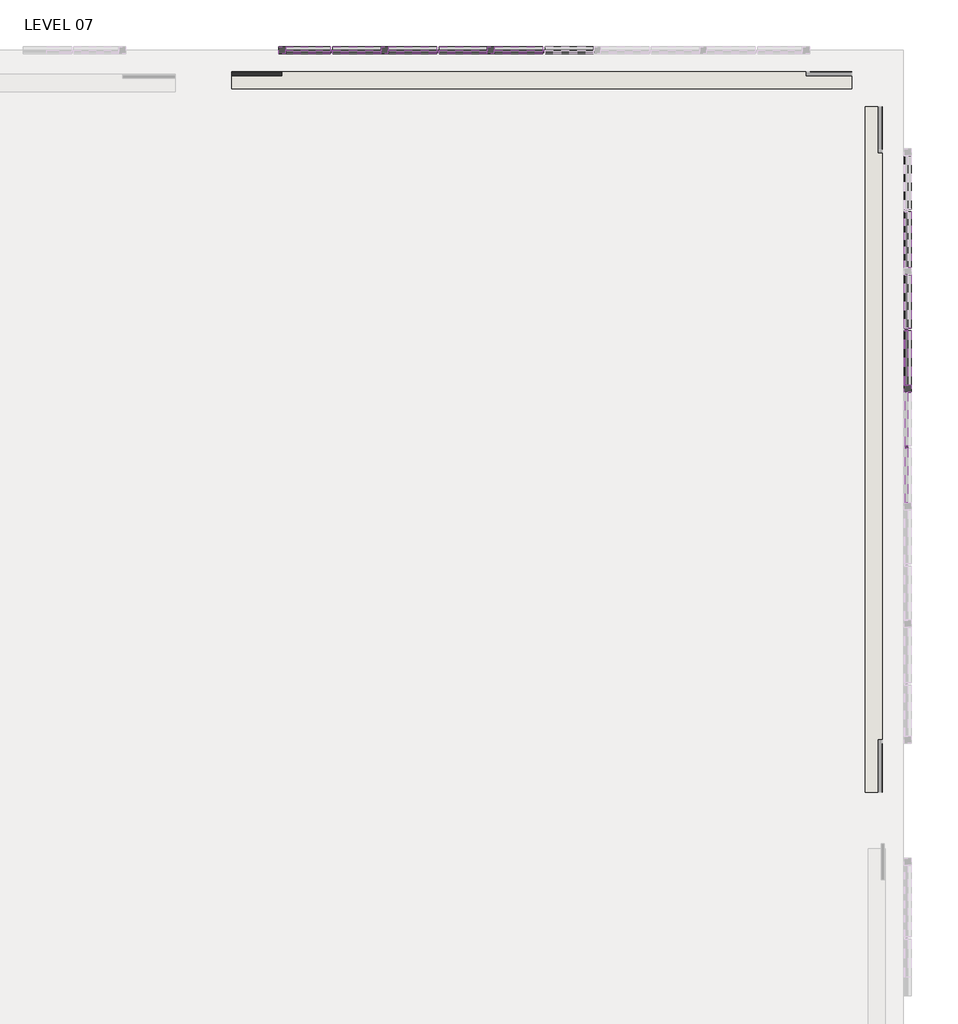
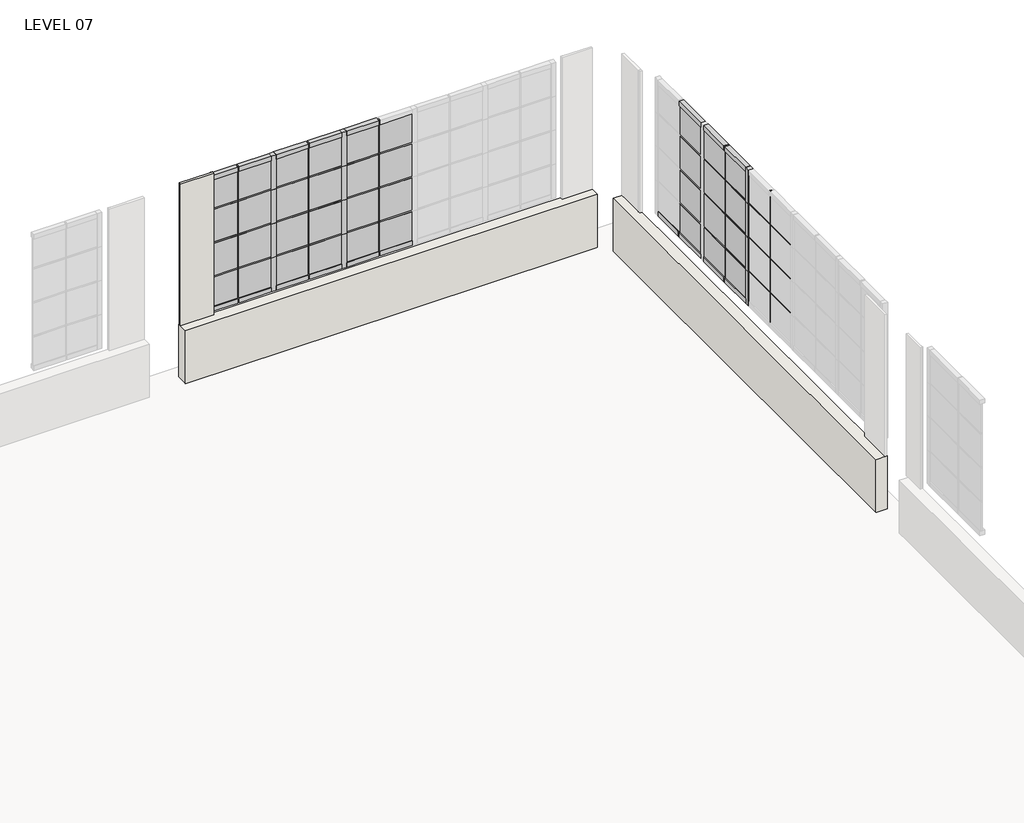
# One storey, part 14 of 15: 78 members, 36 plates, 4 walls.
"""IFC4 building model written with IfcOpenShell, lengths in millimetres."""

from ifc_helpers import new_model, si_unit, frame, origin, place, context, project, spatial, polyline, outline, extrude, faceted_brep, transform, mapped, element, save
from components import member_78bb2ef1, member_d9fe2114, member_fd592df6, member_818b941f, member_79ff4cf2, member_eeb356eb, member_378e0c06, member_ba51e770, member_6e5aab5d, member_bacafba3, member_a6d649dc, member_141a1acd, member_fd366a57, member_934bc167, member_c8ab9ee9, system_panel_glazed_938f432d, system_panel_glazed_ccb3424d, system_panel_glazed_28c059df, system_panel_glazed_11270c83, system_panel_glazed_8b5984c8, system_panel_glazed_ea9a5d31, system_panel_glazed_84a10c8e, system_panel_glazed_44697018, system_panel_glazed_99b9b709, system_panel_glazed_bf1454fd

model = new_model("IFC4")

# Units and contexts
model_context = context("Model", 3, world=origin())
ifc_project = project(units=[si_unit("LENGTHUNIT", "METRE", prefix="MILLI")], contexts=[model_context])

# Site, building, storey
site = spatial("IfcSite", under=ifc_project)
building = spatial("IfcBuilding", under=site)
storey = spatial("IfcBuildingStorey", under=building, Name="LEVEL 07", Elevation=20802.6)

# Members
placement = place(None, origin())
member_shape = member_78bb2ef1(model_context)
element("IfcMember", 1, ObjectType="Rectangular Mullion : 1\" x 1\" - Butt Joint", at=placement, inside=storey, context=model_context, shape_type="MappedRepresentation", body=[
    mapped(member_shape, transform((-445.6849596, -4690.5244085, 23342.6), x_axis=(0.0, 1.0, 0.0), y_axis=(1.0, 0.0, 0.0), z_axis=(0.0, 0.0, -1.0))),
])
element("IfcMember", 2, ObjectType="Rectangular Mullion : 1\" x 1\" - Butt Joint", at=placement, inside=storey, context=model_context, shape_type="MappedRepresentation", body=[
    mapped(member_shape, transform((-445.6849596, -3421.3746451, 23342.6), x_axis=(0.0, 1.0, 0.0), y_axis=(1.0, 0.0, 0.0), z_axis=(0.0, 0.0, -1.0))),
])
element("IfcMember", 3, ObjectType="Rectangular Mullion : 1\" x 1\" - Butt Joint", at=placement, inside=storey, context=model_context, shape_type="MappedRepresentation", body=[
    mapped(member_shape, transform((-445.6849596, -4690.5244085, 22174.2), x_axis=(0.0, 1.0, 0.0), y_axis=(1.0, 0.0, 0.0), z_axis=(0.0, 0.0, -1.0))),
])
element("IfcMember", 4, ObjectType="Rectangular Mullion : 1\" x 1\" - Butt Joint", at=placement, inside=storey, context=model_context, shape_type="MappedRepresentation", body=[
    mapped(member_shape, transform((-445.6849596, -4690.5244085, 22758.4), x_axis=(0.0, 1.0, 0.0), y_axis=(1.0, 0.0, 0.0), z_axis=(0.0, 0.0, -1.0))),
])
element("IfcMember", 5, ObjectType="Rectangular Mullion : 1\" x 1\" - Butt Joint", at=placement, inside=storey, context=model_context, shape_type="MappedRepresentation", body=[
    mapped(member_shape, transform((-445.6849596, -3421.3746451, 22174.2), x_axis=(0.0, 1.0, 0.0), y_axis=(1.0, 0.0, 0.0), z_axis=(0.0, 0.0, -1.0))),
])
element("IfcMember", 6, ObjectType="Rectangular Mullion : 1\" x 1\" - Butt Joint", at=placement, inside=storey, context=model_context, shape_type="MappedRepresentation", body=[
    mapped(member_shape, transform((-445.6849596, -3421.3746451, 22758.4), x_axis=(0.0, 1.0, 0.0), y_axis=(1.0, 0.0, 0.0), z_axis=(0.0, 0.0, -1.0))),
])
element("IfcMember", 7, ObjectType="Rectangular Mullion : 1\" x 1\" - Butt Joint", at=placement, inside=storey, context=model_context, shape_type="MappedRepresentation", body=[
    mapped(member_shape, transform((-445.6849596, -4690.5244085, 21590.0), x_axis=(0.0, 1.0, 0.0), y_axis=(1.0, 0.0, 0.0), z_axis=(0.0, 0.0, -1.0))),
])
element("IfcMember", 8, ObjectType="Rectangular Mullion : 1\" x 1\" - Butt Joint", at=placement, inside=storey, context=model_context, shape_type="MappedRepresentation", body=[
    mapped(member_shape, transform((-445.6849596, -3421.3746451, 21590.0), x_axis=(0.0, 1.0, 0.0), y_axis=(1.0, 0.0, 0.0), z_axis=(0.0, 0.0, -1.0))),
])
member_2_shape = member_d9fe2114(model_context)
element("IfcMember", 9, ObjectType="Rectangular Mullion : 1\" x 1\" - Butt Joint", at=placement, inside=storey, context=model_context, shape_type="MappedRepresentation", body=[
    mapped(member_2_shape, transform((-6124.4171519, -412.75, 23342.6), x_axis=(0.0, 0.0, 1.0), y_axis=(0.0, -1.0, 0.0), z_axis=(1.0, 0.0, 0.0))),
])
element("IfcMember", 10, ObjectType="Rectangular Mullion : 1\" x 1\" - Butt Joint", at=placement, inside=storey, context=model_context, shape_type="MappedRepresentation", body=[
    mapped(member_2_shape, transform((-4976.3371519, -412.75, 23342.6), x_axis=(0.0, 0.0, 1.0), y_axis=(0.0, -1.0, 0.0), z_axis=(1.0, 0.0, 0.0))),
])
element("IfcMember", 11, ObjectType="Rectangular Mullion : 1\" x 1\" - Butt Joint", at=placement, inside=storey, context=model_context, shape_type="MappedRepresentation", body=[
    mapped(member_2_shape, transform((-5524.9771519, -412.75, 23342.6), x_axis=(0.0, 0.0, 1.0), y_axis=(0.0, -1.0, 0.0), z_axis=(1.0, 0.0, 0.0))),
])
element("IfcMember", 12, ObjectType="Rectangular Mullion : 1\" x 1\" - Butt Joint", at=placement, inside=storey, context=model_context, shape_type="MappedRepresentation", body=[
    mapped(member_2_shape, transform((-4376.8971519, -412.75, 23342.6), x_axis=(0.0, 0.0, 1.0), y_axis=(0.0, -1.0, 0.0), z_axis=(1.0, 0.0, 0.0))),
])
element("IfcMember", 13, ObjectType="Rectangular Mullion : 1\" x 1\" - Butt Joint", at=placement, inside=storey, context=model_context, shape_type="MappedRepresentation", body=[
    mapped(member_2_shape, transform((-6124.4171519, -412.75, 22758.4), x_axis=(0.0, 0.0, 1.0), y_axis=(0.0, -1.0, 0.0), z_axis=(1.0, 0.0, 0.0))),
])
element("IfcMember", 14, ObjectType="Rectangular Mullion : 1\" x 1\" - Butt Joint", at=placement, inside=storey, context=model_context, shape_type="MappedRepresentation", body=[
    mapped(member_2_shape, transform((-4976.3371519, -412.75, 22758.4), x_axis=(0.0, 0.0, 1.0), y_axis=(0.0, -1.0, 0.0), z_axis=(1.0, 0.0, 0.0))),
])
element("IfcMember", 15, ObjectType="Rectangular Mullion : 1\" x 1\" - Butt Joint", at=placement, inside=storey, context=model_context, shape_type="MappedRepresentation", body=[
    mapped(member_2_shape, transform((-5524.9771519, -412.75, 22758.4), x_axis=(0.0, 0.0, 1.0), y_axis=(0.0, -1.0, 0.0), z_axis=(1.0, 0.0, 0.0))),
])
element("IfcMember", 16, ObjectType="Rectangular Mullion : 1\" x 1\" - Butt Joint", at=placement, inside=storey, context=model_context, shape_type="MappedRepresentation", body=[
    mapped(member_2_shape, transform((-4376.8971519, -412.75, 22758.4), x_axis=(0.0, 0.0, 1.0), y_axis=(0.0, -1.0, 0.0), z_axis=(1.0, 0.0, 0.0))),
])
element("IfcMember", 17, ObjectType="Rectangular Mullion : 1\" x 1\" - Butt Joint", at=placement, inside=storey, context=model_context, shape_type="MappedRepresentation", body=[
    mapped(member_2_shape, transform((-6124.4171519, -412.75, 22174.2), x_axis=(0.0, 0.0, 1.0), y_axis=(0.0, -1.0, 0.0), z_axis=(1.0, 0.0, 0.0))),
])
element("IfcMember", 18, ObjectType="Rectangular Mullion : 1\" x 1\" - Butt Joint", at=placement, inside=storey, context=model_context, shape_type="MappedRepresentation", body=[
    mapped(member_2_shape, transform((-4976.3371519, -412.75, 22174.2), x_axis=(0.0, 0.0, 1.0), y_axis=(0.0, -1.0, 0.0), z_axis=(1.0, 0.0, 0.0))),
])
element("IfcMember", 19, ObjectType="Rectangular Mullion : 1\" x 1\" - Butt Joint", at=placement, inside=storey, context=model_context, shape_type="MappedRepresentation", body=[
    mapped(member_2_shape, transform((-5524.9771519, -412.75, 22174.2), x_axis=(0.0, 0.0, 1.0), y_axis=(0.0, -1.0, 0.0), z_axis=(1.0, 0.0, 0.0))),
])
element("IfcMember", 20, ObjectType="Rectangular Mullion : 1\" x 1\" - Butt Joint", at=placement, inside=storey, context=model_context, shape_type="MappedRepresentation", body=[
    mapped(member_2_shape, transform((-4376.8971519, -412.75, 22174.2), x_axis=(0.0, 0.0, 1.0), y_axis=(0.0, -1.0, 0.0), z_axis=(1.0, 0.0, 0.0))),
])
member_3_shape = member_fd592df6(model_context)
element("IfcMember", 21, ObjectType="Rectangular Mullion : 1\" x 1\" - Butt Joint", at=placement, inside=storey, context=model_context, shape_type="MappedRepresentation", body=[
    mapped(member_3_shape, transform((-6673.0571519, -412.75, 23342.6), x_axis=(0.0, 0.0, 1.0), y_axis=(0.0, -1.0, 0.0), z_axis=(1.0, 0.0, 0.0))),
])
element("IfcMember", 22, ObjectType="Rectangular Mullion : 1\" x 1\" - Butt Joint", at=placement, inside=storey, context=model_context, shape_type="MappedRepresentation", body=[
    mapped(member_3_shape, transform((-6673.0571519, -412.75, 22758.4), x_axis=(0.0, 0.0, 1.0), y_axis=(0.0, -1.0, 0.0), z_axis=(1.0, 0.0, 0.0))),
])
element("IfcMember", 23, ObjectType="Rectangular Mullion : 1\" x 1\" - Butt Joint", at=placement, inside=storey, context=model_context, shape_type="MappedRepresentation", body=[
    mapped(member_3_shape, transform((-6673.0571519, -412.75, 22174.2), x_axis=(0.0, 0.0, 1.0), y_axis=(0.0, -1.0, 0.0), z_axis=(1.0, 0.0, 0.0))),
])
element("IfcMember", 24, ObjectType="Rectangular Mullion : 1\" x 1\" - Butt Joint", at=placement, inside=storey, context=model_context, shape_type="MappedRepresentation", body=[
    mapped(member_shape, transform((-4364.1971519, -412.75, 23342.6), x_axis=(1.0, 0.0, 0.0), y_axis=(0.0, -1.0, 0.0), z_axis=(0.0, 0.0, -1.0))),
])
element("IfcMember", 25, ObjectType="Rectangular Mullion : 1\" x 1\" - Butt Joint", at=placement, inside=storey, context=model_context, shape_type="MappedRepresentation", body=[
    mapped(member_shape, transform((-5512.2771519, -412.75, 23342.6), x_axis=(1.0, 0.0, 0.0), y_axis=(0.0, -1.0, 0.0), z_axis=(0.0, 0.0, -1.0))),
])
element("IfcMember", 26, ObjectType="Rectangular Mullion : 1\" x 1\" - Butt Joint", at=placement, inside=storey, context=model_context, shape_type="MappedRepresentation", body=[
    mapped(member_shape, transform((-6660.3571519, -412.75, 23342.6), x_axis=(1.0, 0.0, 0.0), y_axis=(0.0, -1.0, 0.0), z_axis=(0.0, 0.0, -1.0))),
])
element("IfcMember", 27, ObjectType="Rectangular Mullion : 1\" x 1\" - Butt Joint", at=placement, inside=storey, context=model_context, shape_type="MappedRepresentation", body=[
    mapped(member_shape, transform((-4364.1971519, -412.75, 22174.2), x_axis=(1.0, 0.0, 0.0), y_axis=(0.0, -1.0, 0.0), z_axis=(0.0, 0.0, -1.0))),
])
element("IfcMember", 28, ObjectType="Rectangular Mullion : 1\" x 1\" - Butt Joint", at=placement, inside=storey, context=model_context, shape_type="MappedRepresentation", body=[
    mapped(member_shape, transform((-4364.1971519, -412.75, 22758.4), x_axis=(1.0, 0.0, 0.0), y_axis=(0.0, -1.0, 0.0), z_axis=(0.0, 0.0, -1.0))),
])
element("IfcMember", 29, ObjectType="Rectangular Mullion : 1\" x 1\" - Butt Joint", at=placement, inside=storey, context=model_context, shape_type="MappedRepresentation", body=[
    mapped(member_shape, transform((-5512.2771519, -412.75, 22174.2), x_axis=(1.0, 0.0, 0.0), y_axis=(0.0, -1.0, 0.0), z_axis=(0.0, 0.0, -1.0))),
])
element("IfcMember", 30, ObjectType="Rectangular Mullion : 1\" x 1\" - Butt Joint", at=placement, inside=storey, context=model_context, shape_type="MappedRepresentation", body=[
    mapped(member_shape, transform((-5512.2771519, -412.75, 22758.4), x_axis=(1.0, 0.0, 0.0), y_axis=(0.0, -1.0, 0.0), z_axis=(0.0, 0.0, -1.0))),
])
element("IfcMember", 31, ObjectType="Rectangular Mullion : 1\" x 1\" - Butt Joint", at=placement, inside=storey, context=model_context, shape_type="MappedRepresentation", body=[
    mapped(member_shape, transform((-6660.3571519, -412.75, 22174.2), x_axis=(1.0, 0.0, 0.0), y_axis=(0.0, -1.0, 0.0), z_axis=(0.0, 0.0, -1.0))),
])
element("IfcMember", 32, ObjectType="Rectangular Mullion : 1\" x 1\" - Butt Joint", at=placement, inside=storey, context=model_context, shape_type="MappedRepresentation", body=[
    mapped(member_shape, transform((-6660.3571519, -412.75, 22758.4), x_axis=(1.0, 0.0, 0.0), y_axis=(0.0, -1.0, 0.0), z_axis=(0.0, 0.0, -1.0))),
])
element("IfcMember", 33, ObjectType="Rectangular Mullion : 1\" x 1\" - Butt Joint", at=placement, inside=storey, context=model_context, shape_type="MappedRepresentation", body=[
    mapped(member_shape, transform((-4364.1971519, -412.75, 21590.0), x_axis=(1.0, 0.0, 0.0), y_axis=(0.0, -1.0, 0.0), z_axis=(0.0, 0.0, -1.0))),
])
element("IfcMember", 34, ObjectType="Rectangular Mullion : 1\" x 1\" - Butt Joint", at=placement, inside=storey, context=model_context, shape_type="MappedRepresentation", body=[
    mapped(member_shape, transform((-5512.2771519, -412.75, 21590.0), x_axis=(1.0, 0.0, 0.0), y_axis=(0.0, -1.0, 0.0), z_axis=(0.0, 0.0, -1.0))),
])
element("IfcMember", 35, ObjectType="Rectangular Mullion : 1\" x 1\" - Butt Joint", at=placement, inside=storey, context=model_context, shape_type="MappedRepresentation", body=[
    mapped(member_shape, transform((-6660.3571519, -412.75, 21590.0), x_axis=(1.0, 0.0, 0.0), y_axis=(0.0, -1.0, 0.0), z_axis=(0.0, 0.0, -1.0))),
])
member_4_shape = member_818b941f(model_context)
element("IfcMember", 36, ObjectType="Rectangular Mullion : 1\" x 1\" - Butt Joint", at=placement, inside=storey, context=model_context, shape_type="MappedRepresentation", body=[
    mapped(member_4_shape, transform((-445.6849596, -4703.2244085, 23342.6), x_axis=(0.0, 0.0, 1.0), y_axis=(1.0, 0.0, 0.0), z_axis=(0.0, 1.0, 0.0))),
])
element("IfcMember", 37, ObjectType="Rectangular Mullion : 1\" x 1\" - Butt Joint", at=placement, inside=storey, context=model_context, shape_type="MappedRepresentation", body=[
    mapped(member_4_shape, transform((-445.6849596, -4703.2244085, 22758.4), x_axis=(0.0, 0.0, 1.0), y_axis=(1.0, 0.0, 0.0), z_axis=(0.0, 1.0, 0.0))),
])
element("IfcMember", 38, ObjectType="Rectangular Mullion : 1\" x 1\" - Butt Joint", at=placement, inside=storey, context=model_context, shape_type="MappedRepresentation", body=[
    mapped(member_4_shape, transform((-445.6849596, -4703.2244085, 22174.2), x_axis=(0.0, 0.0, 1.0), y_axis=(1.0, 0.0, 0.0), z_axis=(0.0, 1.0, 0.0))),
])
member_5_shape = member_79ff4cf2(model_context)
element("IfcMember", 39, ObjectType="Rectangular Mullion : 1\" x 1\" - Butt Joint", at=placement, inside=storey, context=model_context, shape_type="MappedRepresentation", body=[
    mapped(member_5_shape, transform((-445.6849596, -4097.8595268, 23342.6), x_axis=(0.0, 0.0, 1.0), y_axis=(1.0, 0.0, 0.0), z_axis=(0.0, 1.0, 0.0))),
])
element("IfcMember", 40, ObjectType="Rectangular Mullion : 1\" x 1\" - Butt Joint", at=placement, inside=storey, context=model_context, shape_type="MappedRepresentation", body=[
    mapped(member_5_shape, transform((-445.6849596, -4097.8595268, 22758.4), x_axis=(0.0, 0.0, 1.0), y_axis=(1.0, 0.0, 0.0), z_axis=(0.0, 1.0, 0.0))),
])
element("IfcMember", 41, ObjectType="Rectangular Mullion : 1\" x 1\" - Butt Joint", at=placement, inside=storey, context=model_context, shape_type="MappedRepresentation", body=[
    mapped(member_5_shape, transform((-445.6849596, -4097.8595268, 22174.2), x_axis=(0.0, 0.0, 1.0), y_axis=(1.0, 0.0, 0.0), z_axis=(0.0, 1.0, 0.0))),
])
member_6_shape = member_eeb356eb(model_context)
element("IfcMember", 42, ObjectType="Rectangular Mullion : 1\" x 1\" - Butt Joint", at=placement, inside=storey, context=model_context, shape_type="MappedRepresentation", body=[
    mapped(member_6_shape, transform((-445.6849596, -3434.0746451, 23342.6), x_axis=(0.0, 0.0, 1.0), y_axis=(1.0, 0.0, 0.0), z_axis=(0.0, 1.0, 0.0))),
])
element("IfcMember", 43, ObjectType="Rectangular Mullion : 1\" x 1\" - Butt Joint", at=placement, inside=storey, context=model_context, shape_type="MappedRepresentation", body=[
    mapped(member_6_shape, transform((-445.6849596, -3434.0746451, 22758.4), x_axis=(0.0, 0.0, 1.0), y_axis=(1.0, 0.0, 0.0), z_axis=(0.0, 1.0, 0.0))),
])
element("IfcMember", 44, ObjectType="Rectangular Mullion : 1\" x 1\" - Butt Joint", at=placement, inside=storey, context=model_context, shape_type="MappedRepresentation", body=[
    mapped(member_6_shape, transform((-445.6849596, -3434.0746451, 22174.2), x_axis=(0.0, 0.0, 1.0), y_axis=(1.0, 0.0, 0.0), z_axis=(0.0, 1.0, 0.0))),
])
member_7_shape = member_378e0c06(model_context)
element("IfcMember", 45, ObjectType="Rectangular Mullion : 3\" x 3\" Window Jamb", at=placement, inside=storey, context=model_context, shape_type="MappedRepresentation", body=[
    mapped(member_7_shape, transform((-445.6849596, -4059.7595268, 23342.6), x_axis=(0.0, 1.0, 0.0), y_axis=(1.0, 0.0, 0.0), z_axis=(0.0, 0.0, -1.0))),
])
element("IfcMember", 46, ObjectType="Rectangular Mullion : 3\" x 3\" Window Jamb", at=placement, inside=storey, context=model_context, shape_type="MappedRepresentation", body=[
    mapped(member_7_shape, transform((-445.6849596, -4059.7595268, 22174.2), x_axis=(0.0, 1.0, 0.0), y_axis=(1.0, 0.0, 0.0), z_axis=(0.0, 0.0, -1.0))),
])
element("IfcMember", 47, ObjectType="Rectangular Mullion : 3\" x 3\" Window Jamb", at=placement, inside=storey, context=model_context, shape_type="MappedRepresentation", body=[
    mapped(member_7_shape, transform((-445.6849596, -4059.7595268, 22758.4), x_axis=(0.0, 1.0, 0.0), y_axis=(1.0, 0.0, 0.0), z_axis=(0.0, 0.0, -1.0))),
])
element("IfcMember", 48, ObjectType="Rectangular Mullion : 3\" x 3\" Window Jamb", at=placement, inside=storey, context=model_context, shape_type="MappedRepresentation", body=[
    mapped(member_7_shape, transform((-445.6849596, -4059.7595268, 21590.0), x_axis=(0.0, 1.0, 0.0), y_axis=(1.0, 0.0, 0.0), z_axis=(0.0, 0.0, -1.0))),
])
member_8_shape = member_ba51e770(model_context)
element("IfcMember", 49, ObjectType="Rectangular Mullion : 3\" x 3\" Window Jamb", at=placement, inside=storey, context=model_context, shape_type="MappedRepresentation", body=[
    mapped(member_8_shape, transform((-6673.0571519, -412.75, 23926.8), x_axis=(0.0, 0.0, 1.0), y_axis=(0.0, -1.0, 0.0), z_axis=(1.0, 0.0, 0.0))),
])
member_9_shape = member_6e5aab5d(model_context)
element("IfcMember", 50, ObjectType="Rectangular Mullion : 3\" x 3\" Window Jamb", at=placement, inside=storey, context=model_context, shape_type="MappedRepresentation", body=[
    mapped(member_9_shape, transform((-5524.9771519, -412.75, 23926.8), x_axis=(0.0, 0.0, 1.0), y_axis=(0.0, -1.0, 0.0), z_axis=(1.0, 0.0, 0.0))),
])
element("IfcMember", 51, ObjectType="Rectangular Mullion : 3\" x 3\" Window Jamb", at=placement, inside=storey, context=model_context, shape_type="MappedRepresentation", body=[
    mapped(member_9_shape, transform((-4376.8971519, -412.75, 23926.8), x_axis=(0.0, 0.0, 1.0), y_axis=(0.0, -1.0, 0.0), z_axis=(1.0, 0.0, 0.0))),
])
element("IfcMember", 52, ObjectType="Rectangular Mullion : 3\" x 3\" Window Jamb", at=placement, inside=storey, context=model_context, shape_type="MappedRepresentation", body=[
    mapped(member_9_shape, transform((-6124.4171519, -412.75, 23926.8), x_axis=(0.0, 0.0, 1.0), y_axis=(0.0, -1.0, 0.0), z_axis=(1.0, 0.0, 0.0))),
])
element("IfcMember", 53, ObjectType="Rectangular Mullion : 3\" x 3\" Window Jamb", at=placement, inside=storey, context=model_context, shape_type="MappedRepresentation", body=[
    mapped(member_9_shape, transform((-4976.3371519, -412.75, 23926.8), x_axis=(0.0, 0.0, 1.0), y_axis=(0.0, -1.0, 0.0), z_axis=(1.0, 0.0, 0.0))),
])
element("IfcMember", 54, ObjectType="Rectangular Mullion : 3\" x 3\" Window Jamb", at=placement, inside=storey, context=model_context, shape_type="MappedRepresentation", body=[
    mapped(member_9_shape, transform((-6647.6571519, -412.75, 21590.0), x_axis=(0.0, 0.0, -1.0), y_axis=(0.0, -1.0, 0.0), z_axis=(-1.0, 0.0, 0.0))),
])
element("IfcMember", 55, ObjectType="Rectangular Mullion : 3\" x 3\" Window Jamb", at=placement, inside=storey, context=model_context, shape_type="MappedRepresentation", body=[
    mapped(member_9_shape, transform((-5499.5771519, -412.75, 21590.0), x_axis=(0.0, 0.0, -1.0), y_axis=(0.0, -1.0, 0.0), z_axis=(-1.0, 0.0, 0.0))),
])
element("IfcMember", 56, ObjectType="Rectangular Mullion : 3\" x 3\" Window Jamb", at=placement, inside=storey, context=model_context, shape_type="MappedRepresentation", body=[
    mapped(member_9_shape, transform((-4351.4971519, -412.75, 21590.0), x_axis=(0.0, 0.0, -1.0), y_axis=(0.0, -1.0, 0.0), z_axis=(-1.0, 0.0, 0.0))),
])
element("IfcMember", 57, ObjectType="Rectangular Mullion : 3\" x 3\" Window Jamb", at=placement, inside=storey, context=model_context, shape_type="MappedRepresentation", body=[
    mapped(member_9_shape, transform((-6048.2171519, -412.75, 21590.0), x_axis=(0.0, 0.0, -1.0), y_axis=(0.0, -1.0, 0.0), z_axis=(-1.0, 0.0, 0.0))),
])
element("IfcMember", 58, ObjectType="Rectangular Mullion : 3\" x 3\" Window Jamb", at=placement, inside=storey, context=model_context, shape_type="MappedRepresentation", body=[
    mapped(member_9_shape, transform((-4900.1371519, -412.75, 21590.0), x_axis=(0.0, 0.0, -1.0), y_axis=(0.0, -1.0, 0.0), z_axis=(-1.0, 0.0, 0.0))),
])
element("IfcMember", 59, ObjectType="Rectangular Mullion : 3\" x 3\" Window Jamb", at=placement, inside=storey, context=model_context, shape_type="MappedRepresentation", body=[
    mapped(member_8_shape, transform((-7158.1971519, -412.75, 21590.0), x_axis=(0.0, 0.0, -1.0), y_axis=(0.0, -1.0, 0.0), z_axis=(-1.0, 0.0, 0.0))),
])
member_10_shape = member_bacafba3(model_context)
element("IfcMember", 60, ObjectType="Rectangular Mullion : 3\" x 3\" Window Jamb", at=placement, inside=storey, context=model_context, shape_type="MappedRepresentation", body=[
    mapped(member_10_shape, transform((-4938.2371519, -412.75, 23342.6), x_axis=(1.0, 0.0, 0.0), y_axis=(0.0, -1.0, 0.0), z_axis=(0.0, 0.0, -1.0))),
])
element("IfcMember", 61, ObjectType="Rectangular Mullion : 3\" x 3\" Window Jamb", at=placement, inside=storey, context=model_context, shape_type="MappedRepresentation", body=[
    mapped(member_10_shape, transform((-6086.3171519, -412.75, 23342.6), x_axis=(1.0, 0.0, 0.0), y_axis=(0.0, -1.0, 0.0), z_axis=(0.0, 0.0, -1.0))),
])
element("IfcMember", 62, ObjectType="Rectangular Mullion : 3\" x 3\" Window Jamb", at=placement, inside=storey, context=model_context, shape_type="MappedRepresentation", body=[
    mapped(member_10_shape, transform((-4938.2371519, -412.75, 22174.2), x_axis=(1.0, 0.0, 0.0), y_axis=(0.0, -1.0, 0.0), z_axis=(0.0, 0.0, -1.0))),
])
element("IfcMember", 63, ObjectType="Rectangular Mullion : 3\" x 3\" Window Jamb", at=placement, inside=storey, context=model_context, shape_type="MappedRepresentation", body=[
    mapped(member_10_shape, transform((-4938.2371519, -412.75, 22758.4), x_axis=(1.0, 0.0, 0.0), y_axis=(0.0, -1.0, 0.0), z_axis=(0.0, 0.0, -1.0))),
])
element("IfcMember", 64, ObjectType="Rectangular Mullion : 3\" x 3\" Window Jamb", at=placement, inside=storey, context=model_context, shape_type="MappedRepresentation", body=[
    mapped(member_10_shape, transform((-6086.3171519, -412.75, 22174.2), x_axis=(1.0, 0.0, 0.0), y_axis=(0.0, -1.0, 0.0), z_axis=(0.0, 0.0, -1.0))),
])
element("IfcMember", 65, ObjectType="Rectangular Mullion : 3\" x 3\" Window Jamb", at=placement, inside=storey, context=model_context, shape_type="MappedRepresentation", body=[
    mapped(member_10_shape, transform((-6086.3171519, -412.75, 22758.4), x_axis=(1.0, 0.0, 0.0), y_axis=(0.0, -1.0, 0.0), z_axis=(0.0, 0.0, -1.0))),
])
element("IfcMember", 66, ObjectType="Rectangular Mullion : 3\" x 3\" Window Jamb", at=placement, inside=storey, context=model_context, shape_type="MappedRepresentation", body=[
    mapped(member_10_shape, transform((-4938.2371519, -412.75, 21590.0), x_axis=(1.0, 0.0, 0.0), y_axis=(0.0, -1.0, 0.0), z_axis=(0.0, 0.0, -1.0))),
])
element("IfcMember", 67, ObjectType="Rectangular Mullion : 3\" x 3\" Window Jamb", at=placement, inside=storey, context=model_context, shape_type="MappedRepresentation", body=[
    mapped(member_10_shape, transform((-6086.3171519, -412.75, 21590.0), x_axis=(1.0, 0.0, 0.0), y_axis=(0.0, -1.0, 0.0), z_axis=(0.0, 0.0, -1.0))),
])
member_11_shape = member_a6d649dc(model_context)
element("IfcMember", 68, ObjectType="Rectangular Mullion : 3\" x 3\" Window Jamb", at=placement, inside=storey, context=model_context, shape_type="MappedRepresentation", body=[
    mapped(member_11_shape, transform((-7234.3971519, -412.75, 23342.6), x_axis=(-1.0, 0.0, 0.0), y_axis=(0.0, -1.0, 0.0), z_axis=(0.0, 0.0, 1.0))),
])
element("IfcMember", 69, ObjectType="Rectangular Mullion : 3\" x 3\" Window Jamb", at=placement, inside=storey, context=model_context, shape_type="MappedRepresentation", body=[
    mapped(member_11_shape, transform((-7234.3971519, -412.75, 22758.4), x_axis=(-1.0, 0.0, 0.0), y_axis=(0.0, -1.0, 0.0), z_axis=(0.0, 0.0, 1.0))),
])
element("IfcMember", 70, ObjectType="Rectangular Mullion : 3\" x 3\" Window Jamb", at=placement, inside=storey, context=model_context, shape_type="MappedRepresentation", body=[
    mapped(member_11_shape, transform((-7234.3971519, -412.75, 22174.2), x_axis=(-1.0, 0.0, 0.0), y_axis=(0.0, -1.0, 0.0), z_axis=(0.0, 0.0, 1.0))),
])
element("IfcMember", 71, ObjectType="Rectangular Mullion : 3\" x 3\" Window Jamb", at=placement, inside=storey, context=model_context, shape_type="MappedRepresentation", body=[
    mapped(member_11_shape, transform((-7234.3971519, -412.75, 23926.8), x_axis=(-1.0, 0.0, 0.0), y_axis=(0.0, -1.0, 0.0), z_axis=(0.0, 0.0, 1.0))),
])
member_12_shape = member_141a1acd(model_context)
element("IfcMember", 72, ObjectType="Rectangular Mullion : 3\" x 3\" Window Jamb", at=placement, inside=storey, context=model_context, shape_type="MappedRepresentation", body=[
    mapped(member_12_shape, transform((-445.6849596, -3434.0746451, 23926.8), x_axis=(0.0, 0.0, 1.0), y_axis=(1.0, 0.0, 0.0), z_axis=(0.0, 1.0, 0.0))),
])
element("IfcMember", 73, ObjectType="Rectangular Mullion : 3\" x 3\" Window Jamb", at=placement, inside=storey, context=model_context, shape_type="MappedRepresentation", body=[
    mapped(member_12_shape, transform((-445.6849596, -4021.6595268, 21590.0), x_axis=(0.0, 0.0, -1.0), y_axis=(1.0, 0.0, 0.0), z_axis=(0.0, -1.0, 0.0))),
])
member_13_shape = member_fd366a57(model_context)
element("IfcMember", 74, ObjectType="Rectangular Mullion : 3\" x 3\" Window Jamb", at=placement, inside=storey, context=model_context, shape_type="MappedRepresentation", body=[
    mapped(member_13_shape, transform((-445.6849596, -2828.0747634, 23926.8), x_axis=(0.0, 0.0, 1.0), y_axis=(1.0, 0.0, 0.0), z_axis=(0.0, 1.0, 0.0))),
])
element("IfcMember", 75, ObjectType="Rectangular Mullion : 3\" x 3\" Window Jamb", at=placement, inside=storey, context=model_context, shape_type="MappedRepresentation", body=[
    mapped(member_13_shape, transform((-445.6849596, -3408.6746451, 21590.0), x_axis=(0.0, 0.0, -1.0), y_axis=(1.0, 0.0, 0.0), z_axis=(0.0, -1.0, 0.0))),
])
member_14_shape = member_934bc167(model_context)
element("IfcMember", 76, ObjectType="Rectangular Mullion : 3\" x 3\" Window Jamb", at=placement, inside=storey, context=model_context, shape_type="MappedRepresentation", body=[
    mapped(member_14_shape, transform((-445.6849596, -2145.8748817, 23926.8), x_axis=(0.0, 0.0, 1.0), y_axis=(1.0, 0.0, 0.0), z_axis=(0.0, 1.0, 0.0))),
])
element("IfcMember", 77, ObjectType="Rectangular Mullion : 3\" x 3\" Window Jamb", at=placement, inside=storey, context=model_context, shape_type="MappedRepresentation", body=[
    mapped(member_14_shape, transform((-445.6849596, -2751.8747634, 21590.0), x_axis=(0.0, 0.0, -1.0), y_axis=(1.0, 0.0, 0.0), z_axis=(0.0, -1.0, 0.0))),
])
member_15_shape = member_c8ab9ee9(model_context)
element("IfcMember", 78, ObjectType="Rectangular Mullion : 3\" x 3\" Window Jamb", at=placement, inside=storey, context=model_context, shape_type="MappedRepresentation", body=[
    mapped(member_15_shape, transform((-445.6849596, -2120.4748817, 21590.0), x_axis=(0.0, 0.0, -1.0), y_axis=(1.0, 0.0, 0.0), z_axis=(0.0, -1.0, 0.0))),
])

# Plates
system_panel_glazed_shape = system_panel_glazed_938f432d(model_context)
element("IfcPlate", 79, ObjectType="System Panel : Glazed", at=placement, inside=storey, context=model_context, shape_type="MappedRepresentation", body=[
    mapped(system_panel_glazed_shape, transform((-445.6849596, -3727.867086, 21666.2), x_axis=(0.0, 1.0, 0.0), y_axis=(-1.0, 0.0, 0.0), z_axis=(0.0, 0.0, 1.0))),
])
element("IfcPlate", 80, ObjectType="System Panel : Glazed", at=placement, inside=storey, context=model_context, shape_type="MappedRepresentation", body=[
    mapped(system_panel_glazed_shape, transform((-445.6849596, -3727.867086, 23355.3), x_axis=(0.0, 1.0, 0.0), y_axis=(-1.0, 0.0, 0.0), z_axis=(0.0, 0.0, 1.0))),
])
system_panel_glazed_2_shape = system_panel_glazed_ccb3424d(model_context)
element("IfcPlate", 81, ObjectType="System Panel : Glazed", at=placement, inside=storey, context=model_context, shape_type="MappedRepresentation", body=[
    mapped(system_panel_glazed_2_shape, transform((-445.6849596, -2448.8748226, 21666.2), x_axis=(0.0, 1.0, 0.0), y_axis=(-1.0, 0.0, 0.0), z_axis=(0.0, 0.0, 1.0))),
])
element("IfcPlate", 82, ObjectType="System Panel : Glazed", at=placement, inside=storey, context=model_context, shape_type="MappedRepresentation", body=[
    mapped(system_panel_glazed_2_shape, transform((-445.6849596, -2448.8748226, 23355.3), x_axis=(0.0, 1.0, 0.0), y_axis=(-1.0, 0.0, 0.0), z_axis=(0.0, 0.0, 1.0))),
])
system_panel_glazed_3_shape = system_panel_glazed_28c059df(model_context)
element("IfcPlate", 83, ObjectType="System Panel : Glazed", at=placement, inside=storey, context=model_context, shape_type="MappedRepresentation", body=[
    mapped(system_panel_glazed_3_shape, transform((-445.6849596, -3727.867086, 22771.1), x_axis=(0.0, 1.0, 0.0), y_axis=(-1.0, 0.0, 0.0), z_axis=(0.0, 0.0, 1.0))),
])
element("IfcPlate", 84, ObjectType="System Panel : Glazed", at=placement, inside=storey, context=model_context, shape_type="MappedRepresentation", body=[
    mapped(system_panel_glazed_3_shape, transform((-445.6849596, -3727.867086, 22186.9), x_axis=(0.0, 1.0, 0.0), y_axis=(-1.0, 0.0, 0.0), z_axis=(0.0, 0.0, 1.0))),
])
system_panel_glazed_4_shape = system_panel_glazed_11270c83(model_context)
element("IfcPlate", 85, ObjectType="System Panel : Glazed", at=placement, inside=storey, context=model_context, shape_type="MappedRepresentation", body=[
    mapped(system_panel_glazed_4_shape, transform((-445.6849596, -2448.8748226, 22771.1), x_axis=(0.0, 1.0, 0.0), y_axis=(-1.0, 0.0, 0.0), z_axis=(0.0, 0.0, 1.0))),
])
element("IfcPlate", 86, ObjectType="System Panel : Glazed", at=placement, inside=storey, context=model_context, shape_type="MappedRepresentation", body=[
    mapped(system_panel_glazed_4_shape, transform((-445.6849596, -2448.8748226, 22186.9), x_axis=(0.0, 1.0, 0.0), y_axis=(-1.0, 0.0, 0.0), z_axis=(0.0, 0.0, 1.0))),
])
system_panel_glazed_5_shape = system_panel_glazed_8b5984c8(model_context)
element("IfcPlate", 87, ObjectType="System Panel : Glazed", at=placement, inside=storey, context=model_context, shape_type="MappedRepresentation", body=[
    mapped(system_panel_glazed_5_shape, transform((-445.6849596, -3118.3747043, 21666.2), x_axis=(0.0, 1.0, 0.0), y_axis=(-1.0, 0.0, 0.0), z_axis=(0.0, 0.0, 1.0))),
])
element("IfcPlate", 88, ObjectType="System Panel : Glazed", at=placement, inside=storey, context=model_context, shape_type="MappedRepresentation", body=[
    mapped(system_panel_glazed_5_shape, transform((-445.6849596, -3118.3747043, 23355.3), x_axis=(0.0, 1.0, 0.0), y_axis=(-1.0, 0.0, 0.0), z_axis=(0.0, 0.0, 1.0))),
])
system_panel_glazed_6_shape = system_panel_glazed_ea9a5d31(model_context)
element("IfcPlate", 89, ObjectType="System Panel : Glazed", at=placement, inside=storey, context=model_context, shape_type="MappedRepresentation", body=[
    mapped(system_panel_glazed_6_shape, transform((-445.6849596, -3118.3747043, 22186.9), x_axis=(0.0, 1.0, 0.0), y_axis=(-1.0, 0.0, 0.0), z_axis=(0.0, 0.0, 1.0))),
])
element("IfcPlate", 90, ObjectType="System Panel : Glazed", at=placement, inside=storey, context=model_context, shape_type="MappedRepresentation", body=[
    mapped(system_panel_glazed_6_shape, transform((-445.6849596, -3118.3747043, 22771.1), x_axis=(0.0, 1.0, 0.0), y_axis=(-1.0, 0.0, 0.0), z_axis=(0.0, 0.0, 1.0))),
])
system_panel_glazed_7_shape = system_panel_glazed_84a10c8e(model_context)
element("IfcPlate", 91, ObjectType="System Panel : Glazed", at=placement, inside=storey, context=model_context, shape_type="MappedRepresentation", body=[
    mapped(system_panel_glazed_7_shape, transform((-6915.6271519, -412.75, 21666.2), x_axis=(1.0, 0.0, 0.0), y_axis=(0.0, 1.0, 0.0), z_axis=(0.0, 0.0, 1.0))),
])
element("IfcPlate", 92, ObjectType="System Panel : Glazed", at=placement, inside=storey, context=model_context, shape_type="MappedRepresentation", body=[
    mapped(system_panel_glazed_7_shape, transform((-6915.6271519, -412.75, 23355.3), x_axis=(1.0, 0.0, 0.0), y_axis=(0.0, 1.0, 0.0), z_axis=(0.0, 0.0, 1.0))),
])
system_panel_glazed_8_shape = system_panel_glazed_44697018(model_context)
element("IfcPlate", 93, ObjectType="System Panel : Glazed", at=placement, inside=storey, context=model_context, shape_type="MappedRepresentation", body=[
    mapped(system_panel_glazed_8_shape, transform((-4638.5171519, -412.75, 21666.2), x_axis=(1.0, 0.0, 0.0), y_axis=(0.0, 1.0, 0.0), z_axis=(0.0, 0.0, 1.0))),
])
element("IfcPlate", 94, ObjectType="System Panel : Glazed", at=placement, inside=storey, context=model_context, shape_type="MappedRepresentation", body=[
    mapped(system_panel_glazed_8_shape, transform((-5786.5971519, -412.75, 21666.2), x_axis=(1.0, 0.0, 0.0), y_axis=(0.0, 1.0, 0.0), z_axis=(0.0, 0.0, 1.0))),
])
element("IfcPlate", 95, ObjectType="System Panel : Glazed", at=placement, inside=storey, context=model_context, shape_type="MappedRepresentation", body=[
    mapped(system_panel_glazed_8_shape, transform((-5786.5971519, -412.75, 23355.3), x_axis=(1.0, 0.0, 0.0), y_axis=(0.0, 1.0, 0.0), z_axis=(0.0, 0.0, 1.0))),
])
element("IfcPlate", 96, ObjectType="System Panel : Glazed", at=placement, inside=storey, context=model_context, shape_type="MappedRepresentation", body=[
    mapped(system_panel_glazed_8_shape, transform((-4638.5171519, -412.75, 23355.3), x_axis=(1.0, 0.0, 0.0), y_axis=(0.0, 1.0, 0.0), z_axis=(0.0, 0.0, 1.0))),
])
element("IfcPlate", 97, ObjectType="System Panel : Glazed", at=placement, inside=storey, context=model_context, shape_type="MappedRepresentation", body=[
    mapped(system_panel_glazed_8_shape, transform((-4089.8771519, -412.75, 21666.2), x_axis=(1.0, 0.0, 0.0), y_axis=(0.0, 1.0, 0.0), z_axis=(0.0, 0.0, 1.0))),
])
element("IfcPlate", 98, ObjectType="System Panel : Glazed", at=placement, inside=storey, context=model_context, shape_type="MappedRepresentation", body=[
    mapped(system_panel_glazed_8_shape, transform((-4089.8771519, -412.75, 23355.3), x_axis=(1.0, 0.0, 0.0), y_axis=(0.0, 1.0, 0.0), z_axis=(0.0, 0.0, 1.0))),
])
element("IfcPlate", 99, ObjectType="System Panel : Glazed", at=placement, inside=storey, context=model_context, shape_type="MappedRepresentation", body=[
    mapped(system_panel_glazed_8_shape, transform((-5237.9571519, -412.75, 21666.2), x_axis=(1.0, 0.0, 0.0), y_axis=(0.0, 1.0, 0.0), z_axis=(0.0, 0.0, 1.0))),
])
element("IfcPlate", 100, ObjectType="System Panel : Glazed", at=placement, inside=storey, context=model_context, shape_type="MappedRepresentation", body=[
    mapped(system_panel_glazed_8_shape, transform((-5237.9571519, -412.75, 23355.3), x_axis=(1.0, 0.0, 0.0), y_axis=(0.0, 1.0, 0.0), z_axis=(0.0, 0.0, 1.0))),
])
element("IfcPlate", 101, ObjectType="System Panel : Glazed", at=placement, inside=storey, context=model_context, shape_type="MappedRepresentation", body=[
    mapped(system_panel_glazed_8_shape, transform((-6386.0371519, -412.75, 21666.2), x_axis=(1.0, 0.0, 0.0), y_axis=(0.0, 1.0, 0.0), z_axis=(0.0, 0.0, 1.0))),
])
element("IfcPlate", 102, ObjectType="System Panel : Glazed", at=placement, inside=storey, context=model_context, shape_type="MappedRepresentation", body=[
    mapped(system_panel_glazed_8_shape, transform((-6386.0371519, -412.75, 23355.3), x_axis=(1.0, 0.0, 0.0), y_axis=(0.0, 1.0, 0.0), z_axis=(0.0, 0.0, 1.0))),
])
system_panel_glazed_9_shape = system_panel_glazed_99b9b709(model_context)
element("IfcPlate", 103, ObjectType="System Panel : Glazed", at=placement, inside=storey, context=model_context, shape_type="MappedRepresentation", body=[
    mapped(system_panel_glazed_9_shape, transform((-6915.6271519, -412.75, 22771.1), x_axis=(1.0, 0.0, 0.0), y_axis=(0.0, 1.0, 0.0), z_axis=(0.0, 0.0, 1.0))),
])
element("IfcPlate", 104, ObjectType="System Panel : Glazed", at=placement, inside=storey, context=model_context, shape_type="MappedRepresentation", body=[
    mapped(system_panel_glazed_9_shape, transform((-6915.6271519, -412.75, 22186.9), x_axis=(1.0, 0.0, 0.0), y_axis=(0.0, 1.0, 0.0), z_axis=(0.0, 0.0, 1.0))),
])
system_panel_glazed_10_shape = system_panel_glazed_bf1454fd(model_context)
element("IfcPlate", 105, ObjectType="System Panel : Glazed", at=placement, inside=storey, context=model_context, shape_type="MappedRepresentation", body=[
    mapped(system_panel_glazed_10_shape, transform((-5786.5971519, -412.75, 22771.1), x_axis=(1.0, 0.0, 0.0), y_axis=(0.0, 1.0, 0.0), z_axis=(0.0, 0.0, 1.0))),
])
element("IfcPlate", 106, ObjectType="System Panel : Glazed", at=placement, inside=storey, context=model_context, shape_type="MappedRepresentation", body=[
    mapped(system_panel_glazed_10_shape, transform((-4638.5171519, -412.75, 22771.1), x_axis=(1.0, 0.0, 0.0), y_axis=(0.0, 1.0, 0.0), z_axis=(0.0, 0.0, 1.0))),
])
element("IfcPlate", 107, ObjectType="System Panel : Glazed", at=placement, inside=storey, context=model_context, shape_type="MappedRepresentation", body=[
    mapped(system_panel_glazed_10_shape, transform((-5786.5971519, -412.75, 22186.9), x_axis=(1.0, 0.0, 0.0), y_axis=(0.0, 1.0, 0.0), z_axis=(0.0, 0.0, 1.0))),
])
element("IfcPlate", 108, ObjectType="System Panel : Glazed", at=placement, inside=storey, context=model_context, shape_type="MappedRepresentation", body=[
    mapped(system_panel_glazed_10_shape, transform((-4638.5171519, -412.75, 22186.9), x_axis=(1.0, 0.0, 0.0), y_axis=(0.0, 1.0, 0.0), z_axis=(0.0, 0.0, 1.0))),
])
element("IfcPlate", 109, ObjectType="System Panel : Glazed", at=placement, inside=storey, context=model_context, shape_type="MappedRepresentation", body=[
    mapped(system_panel_glazed_10_shape, transform((-4089.8771519, -412.75, 22186.9), x_axis=(1.0, 0.0, 0.0), y_axis=(0.0, 1.0, 0.0), z_axis=(0.0, 0.0, 1.0))),
])
element("IfcPlate", 110, ObjectType="System Panel : Glazed", at=placement, inside=storey, context=model_context, shape_type="MappedRepresentation", body=[
    mapped(system_panel_glazed_10_shape, transform((-4089.8771519, -412.75, 22771.1), x_axis=(1.0, 0.0, 0.0), y_axis=(0.0, 1.0, 0.0), z_axis=(0.0, 0.0, 1.0))),
])
element("IfcPlate", 111, ObjectType="System Panel : Glazed", at=placement, inside=storey, context=model_context, shape_type="MappedRepresentation", body=[
    mapped(system_panel_glazed_10_shape, transform((-5237.9571519, -412.75, 22186.9), x_axis=(1.0, 0.0, 0.0), y_axis=(0.0, 1.0, 0.0), z_axis=(0.0, 0.0, 1.0))),
])
element("IfcPlate", 112, ObjectType="System Panel : Glazed", at=placement, inside=storey, context=model_context, shape_type="MappedRepresentation", body=[
    mapped(system_panel_glazed_10_shape, transform((-5237.9571519, -412.75, 22771.1), x_axis=(1.0, 0.0, 0.0), y_axis=(0.0, 1.0, 0.0), z_axis=(0.0, 0.0, 1.0))),
])
element("IfcPlate", 113, ObjectType="System Panel : Glazed", at=placement, inside=storey, context=model_context, shape_type="MappedRepresentation", body=[
    mapped(system_panel_glazed_10_shape, transform((-6386.0371519, -412.75, 22186.9), x_axis=(1.0, 0.0, 0.0), y_axis=(0.0, 1.0, 0.0), z_axis=(0.0, 0.0, 1.0))),
])
element("IfcPlate", 114, ObjectType="System Panel : Glazed", at=placement, inside=storey, context=model_context, shape_type="MappedRepresentation", body=[
    mapped(system_panel_glazed_10_shape, transform((-6386.0371519, -412.75, 22771.1), x_axis=(1.0, 0.0, 0.0), y_axis=(0.0, 1.0, 0.0), z_axis=(0.0, 0.0, 1.0))),
])

# Walls
element("IfcWall", 115, ObjectType="Partition A6_", at=placement, inside=storey, context=model_context, shape_type="SweptSolid", body=[
    extrude(outline(polyline([(-709.2099596, -1012.825), (-709.2099596, -8425.3738171), (-893.3599596, -8425.3738171), (-893.3599596, -1012.825), (-709.2099596, -1012.825)])), frame((0.0, 0.0, 20802.6), z_axis=(0.0, 0.0, 1.0), x_axis=(1.0, 0.0, 0.0)), (0.0, 0.0, 1.0), 914.4),
])
element("IfcWall", 116, ObjectType="Partition A6_", at=placement, inside=storey, context=model_context, shape_type="SweptSolid", body=[
    extrude(outline(polyline([(-7742.4721136, -631.825), (-1036.2349596, -631.825), (-1036.2349596, -815.975), (-7742.4721136, -815.975), (-7742.4721136, -631.825)])), frame((0.0, 0.0, 20802.6), z_axis=(0.0, 0.0, 1.0), x_axis=(1.0, 0.0, 0.0)), (0.0, 0.0, 1.0), 914.4),
])
element("IfcWall", 117, ObjectType="Partition F0_", at=placement, inside=storey, context=model_context, shape_type="Brep", body=[
    faceted_brep([(-7199.4721519, -639.7625, 21717.0), (-7234.3971519, -639.7625, 21717.0), (-7742.4721136, -639.7625, 21717.0), (-7742.4721136, -639.7625, 24155.4), (-7234.3971519, -639.7625, 24155.4), (-7199.4721519, -639.7625, 24155.4), (-7199.4721519, -674.6875, 21717.0), (-7199.4721519, -674.6875, 24155.4), (-7742.4721136, -674.6875, 24155.4), (-7742.4721136, -674.6875, 21717.0)], [[[0, 1, 2, 3, 4, 5]], [[6, 7, 8, 9]], [[2, 1, 0, 6, 9]], [[3, 2, 9, 8]], [[5, 4, 3, 8, 7]], [[0, 5, 7, 6]]]),
])
element("IfcWall", 118, ObjectType="Partition F0_", at=placement, inside=storey, context=model_context, shape_type="SweptSolid", body=[
    extrude(outline(polyline([(-7234.3971519, -639.7625), (-7234.3971519, -631.825), (-7199.4721519, -631.825), (-7199.4721519, -639.7625), (-7234.3971519, -639.7625)])), frame((0.0, 0.0, 21717.0), z_axis=(0.0, 0.0, 1.0), x_axis=(1.0, 0.0, 0.0)), (0.0, 0.0, 1.0), 2438.4),
])

save(model, "model.ifc")
